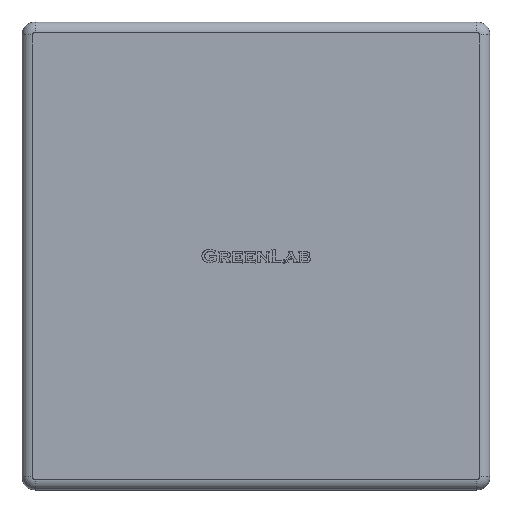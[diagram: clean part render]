
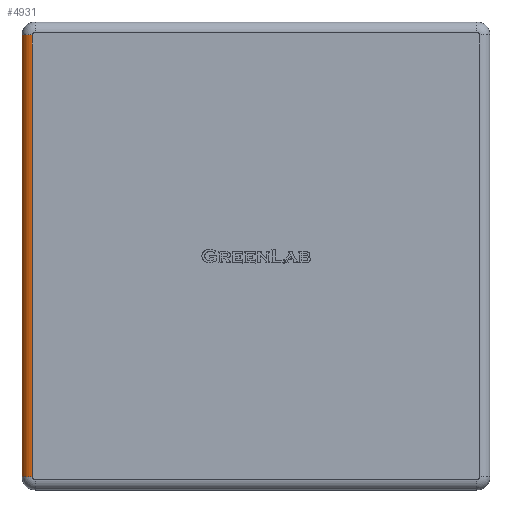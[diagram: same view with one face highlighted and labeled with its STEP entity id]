
A CAD part, top view. The second image highlights one B-rep face of the part: STEP entity #4931.
In plain terms, the highlighted cylindrical face has radius 2 mm (diameter 4 mm), a partial arc.
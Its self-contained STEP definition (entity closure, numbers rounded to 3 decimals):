
#12 = DIRECTION ( 'NONE',  ( 0., 0., 1. ) ) ;
#78 = CARTESIAN_POINT ( 'NONE',  ( -43.036, 41.11, 3. ) ) ;
#186 = EDGE_CURVE ( 'NONE', #3450, #10279, #8100, .T. ) ;
#225 = CARTESIAN_POINT ( 'NONE',  ( -45.036, -43.89, 1. ) ) ;
#652 = ORIENTED_EDGE ( 'NONE', *, *, #186, .F. ) ;
#903 = LINE ( 'NONE', #3119, #2375 ) ;
#1037 = EDGE_LOOP ( 'NONE', ( #652, #2294, #2410, #9343 ) ) ;
#1765 = AXIS2_PLACEMENT_3D ( 'NONE', #5601, #6175, #12 ) ;
#2026 = CARTESIAN_POINT ( 'NONE',  ( -43.036, -43.89, 1. ) ) ;
#2294 = ORIENTED_EDGE ( 'NONE', *, *, #4543, .F. ) ;
#2375 = VECTOR ( 'NONE', #2431, 1000. ) ;
#2410 = ORIENTED_EDGE ( 'NONE', *, *, #5869, .F. ) ;
#2431 = DIRECTION ( 'NONE',  ( 0., -1., 0. ) ) ;
#2697 = LINE ( 'NONE', #7382, #3024 ) ;
#2726 = CARTESIAN_POINT ( 'NONE',  ( -43.036, -43.89, 3. ) ) ;
#2900 = CARTESIAN_POINT ( 'NONE',  ( -43.036, 0., 1. ) ) ;
#3024 = VECTOR ( 'NONE', #3433, 1000. ) ;
#3119 = CARTESIAN_POINT ( 'NONE',  ( -43.036, 0., 3. ) ) ;
#3349 = CARTESIAN_POINT ( 'NONE',  ( -45.036, 41.11, 1. ) ) ;
#3433 = DIRECTION ( 'NONE',  ( 0., 1., 0. ) ) ;
#3450 = VERTEX_POINT ( 'NONE', #3349 ) ;
#4354 = FACE_OUTER_BOUND ( 'NONE', #1037, .T. ) ;
#4543 = EDGE_CURVE ( 'NONE', #6746, #3450, #2697, .T. ) ;
#4931 = ADVANCED_FACE ( 'NONE', ( #4354 ), #7525, .T. ) ;
#5482 = VERTEX_POINT ( 'NONE', #2726 ) ;
#5601 = CARTESIAN_POINT ( 'NONE',  ( -43.036, 41.11, 1. ) ) ;
#5869 = EDGE_CURVE ( 'NONE', #5482, #6746, #9669, .T. ) ;
#5975 = DIRECTION ( 'NONE',  ( 1., 0., 0. ) ) ;
#6175 = DIRECTION ( 'NONE',  ( 0., 1., 0. ) ) ;
#6330 = AXIS2_PLACEMENT_3D ( 'NONE', #2900, #10014, #8464 ) ;
#6680 = EDGE_CURVE ( 'NONE', #10279, #5482, #903, .T. ) ;
#6746 = VERTEX_POINT ( 'NONE', #225 ) ;
#7382 = CARTESIAN_POINT ( 'NONE',  ( -45.036, 43.61, 1. ) ) ;
#7525 = CYLINDRICAL_SURFACE ( 'NONE', #6330, 2. ) ;
#7687 = AXIS2_PLACEMENT_3D ( 'NONE', #2026, #8340, #5975 ) ;
#8100 = CIRCLE ( 'NONE', #1765, 2. ) ;
#8340 = DIRECTION ( 'NONE',  ( 0., -1., 0. ) ) ;
#8464 = DIRECTION ( 'NONE',  ( 1., 0., 0. ) ) ;
#9343 = ORIENTED_EDGE ( 'NONE', *, *, #6680, .F. ) ;
#9669 = CIRCLE ( 'NONE', #7687, 2. ) ;
#10014 = DIRECTION ( 'NONE',  ( 0., -1., 0. ) ) ;
#10279 = VERTEX_POINT ( 'NONE', #78 ) ;
